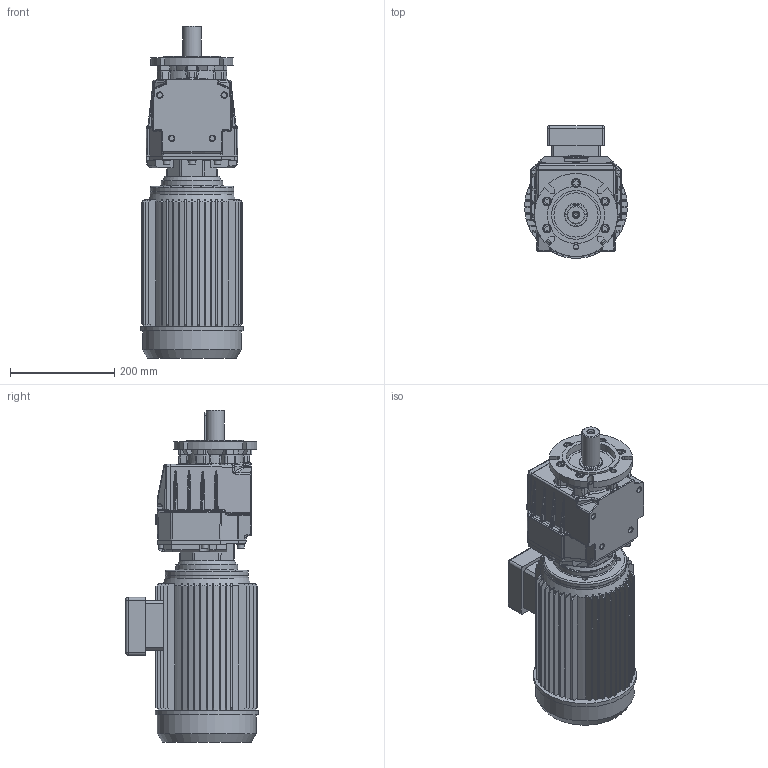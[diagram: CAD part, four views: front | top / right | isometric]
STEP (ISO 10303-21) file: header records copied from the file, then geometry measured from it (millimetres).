
FILE_DESCRIPTION( ( 'Unknown' ), '1' );
FILE_NAME( 'E:/services/configuratordownloads/customers/HYDROMEC/COASSIALI/download/D2C17BC111A7D9AAFAD0B9CF13527A9F/STEP/D2C17BC111A7D9AAFAD0B9CF13527A9F.3d.stp', 'Unknown', ( 'Unknown' ), ( 'Unknown' ), 'PSStep 10.1', 'Unknown', ' ' );
FILE_SCHEMA( ( 'AUTOMOTIVE_DESIGN { 1 0 10303 214 1 1 1 1 }' ) );
Length unit declared in the file: millimetre
Products named in the file (1): C618800
Bounding box: 198 x 255 x 638.4 mm (x, y, z)
Volume: 13967814.1 mm3; surface area: 796447.9 mm2
Topology: 1 solids, 33 shells, 1741 faces, 4353 edges, 2746 vertices
Faces by surface type: plane 923, cylinder 402, bspline 196, cone 137, torus 45, sphere 26, revolution 8, extrusion 4
Full cylindrical faces by diameter (mm): 4.917 x6, 6 x6, 6.5 x1, 6.8 x8, 7.175 x6, 8 x1, 8.376 x6, 8.5 x8, 9 x4, 10 x7, 10.106 x4, 10.5 x6, 11.3 x1, 11.445 x2, 12.75 x8, 13.5 x1, 15.8 x5, 16.5 x5, 18 x1, 19 x1, 20 x1, 22 x1, 35 x1, 45 x2, 62 x1, 68 x1, 85 x1, 93.5 x1, 103 x1, 106 x1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
Entity records: 75671 total; most frequent: CARTESIAN_POINT 23002, ORIENTED_EDGE 8086, DIRECTION 7473, EDGE_CURVE 4043, VERTEX_POINT 2649, AXIS2_PLACEMENT_3D 2611, VECTOR 2243, LINE 2239
